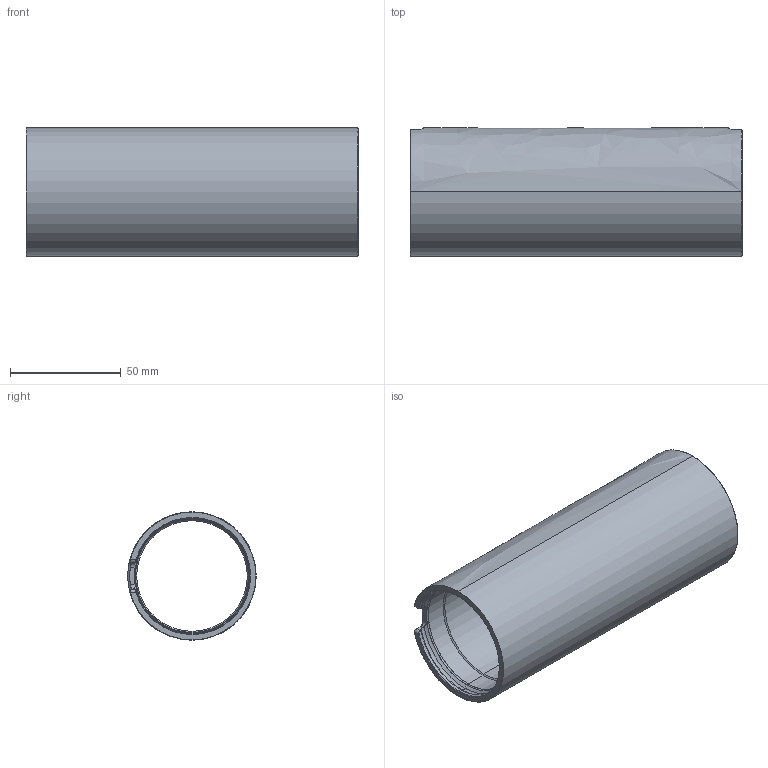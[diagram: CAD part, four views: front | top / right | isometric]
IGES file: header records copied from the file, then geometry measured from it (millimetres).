
Start section: SolidWorks IGES file using analytic representation for surfaces
Global section: file name: C:\Users\Achilles\Desktop\wte2 2020\WTE2-LOCKING-TUBE-R1\WTE2-LOCKING-TUBE-R1.IGS; native system: SolidWorks 2020; preprocessor: SolidWorks 2020; author: Achilles; date: 191112.111222; units: millimetre
Bounding box: 150 x 58 x 58 mm (x, y, z)
Surface area: 52032.3 mm2 (no closed solid volume)
Topology: 0 solids, 0 shells, 76 faces, 808 edges, 808 vertices
Faces by surface type: revolution 44, bspline 32
